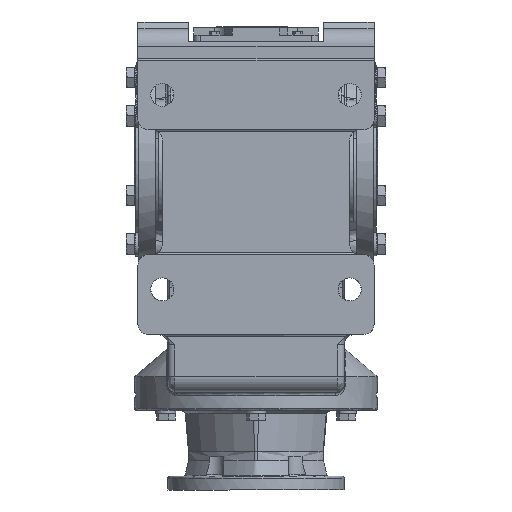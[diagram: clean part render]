
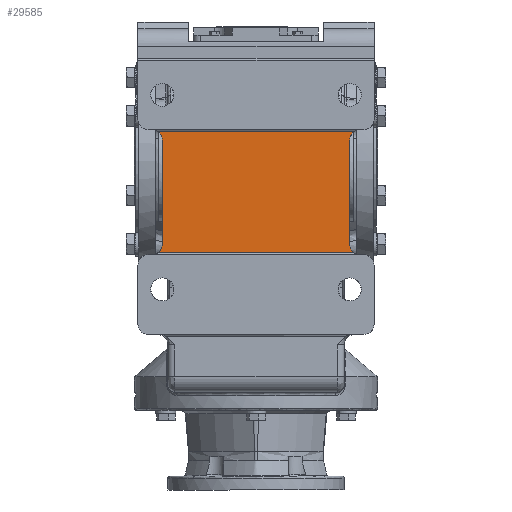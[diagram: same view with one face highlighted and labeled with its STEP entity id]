
A CAD part, front view. The second image highlights one B-rep face of the part: STEP entity #29585.
In plain terms, the highlighted planar face has unit normal (0, -1, 0).
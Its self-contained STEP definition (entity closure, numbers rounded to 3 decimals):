
#5784 = CARTESIAN_POINT ( 'NONE',  ( 621.774, -310., -235. ) ) ;
#5786 = PLANE ( 'NONE',  #24043 ) ;
#5788 = DIRECTION ( 'NONE',  ( 0., 1., 0. ) ) ;
#5789 = DIRECTION ( 'NONE',  ( 0., 0., 1. ) ) ;
#9008 = DIRECTION ( 'NONE',  ( 1., 0., 0. ) ) ;
#9032 = CARTESIAN_POINT ( 'NONE',  ( 621.774, -310., 42. ) ) ;
#9452 = CARTESIAN_POINT ( 'NONE',  ( 621.774, -310., -132. ) ) ;
#9453 = DIRECTION ( 'NONE',  ( -1., 0., 0. ) ) ;
#11813 = LINE ( 'NONE', #9032, #11821 ) ;
#11821 = VECTOR ( 'NONE', #9008, 1000. ) ;
#12622 = LINE ( 'NONE', #9452, #12625 ) ;
#12625 = VECTOR ( 'NONE', #9453, 1000. ) ;
#14636 = EDGE_LOOP ( 'NONE', ( #30355, #30356, #30357, #20639, #20641, #20643, #20645, #20647 ) ) ;
#20639 = ORIENTED_EDGE ( 'NONE', *, *, #44101, .F. ) ;
#20641 = ORIENTED_EDGE ( 'NONE', *, *, #44103, .T. ) ;
#20643 = ORIENTED_EDGE ( 'NONE', *, *, #77961, .F. ) ;
#20645 = ORIENTED_EDGE ( 'NONE', *, *, #44105, .T. ) ;
#20647 = ORIENTED_EDGE ( 'NONE', *, *, #44108, .F. ) ;
#21332 = FACE_OUTER_BOUND ( 'NONE', #14636, .T. ) ;
#24043 = AXIS2_PLACEMENT_3D ( 'NONE', #5784, #5788, #5789 ) ;
#29585 = ADVANCED_FACE ( 'NONE', ( #21332 ), #5786, .F. ) ;
#30355 = ORIENTED_EDGE ( 'NONE', *, *, #44097, .T. ) ;
#30356 = ORIENTED_EDGE ( 'NONE', *, *, #78082, .F. ) ;
#30357 = ORIENTED_EDGE ( 'NONE', *, *, #44099, .T. ) ;
#37422 = DIRECTION ( 'NONE',  ( 0., 0., -1. ) ) ;
#37424 = CARTESIAN_POINT ( 'NONE',  ( 135., -310., 0. ) ) ;
#37426 = CARTESIAN_POINT ( 'NONE',  ( -150., -310., -120. ) ) ;
#37428 = DIRECTION ( 'NONE',  ( 0., 1., 0. ) ) ;
#37430 = DIRECTION ( 'NONE',  ( 0., 0., 1. ) ) ;
#37434 = CARTESIAN_POINT ( 'NONE',  ( 150., -310., -120. ) ) ;
#37436 = DIRECTION ( 'NONE',  ( 0., 1., 0. ) ) ;
#37437 = DIRECTION ( 'NONE',  ( 0., 0., 1. ) ) ;
#37442 = CARTESIAN_POINT ( 'NONE',  ( -135., -310., 0. ) ) ;
#37444 = DIRECTION ( 'NONE',  ( 0., 0., 1. ) ) ;
#37446 = CARTESIAN_POINT ( 'NONE',  ( 150., -310., 30. ) ) ;
#37447 = DIRECTION ( 'NONE',  ( 0., 1., 0. ) ) ;
#37449 = DIRECTION ( 'NONE',  ( 0., 0., -1. ) ) ;
#37453 = CARTESIAN_POINT ( 'NONE',  ( -150., -310., 30. ) ) ;
#37455 = DIRECTION ( 'NONE',  ( 0., 1., 0. ) ) ;
#37457 = DIRECTION ( 'NONE',  ( 0., 0., -1. ) ) ;
#44097 = EDGE_CURVE ( 'NONE', #47050, #47045, #62829, .T. ) ;
#44099 = EDGE_CURVE ( 'NONE', #47044, #47061, #62825, .T. ) ;
#44101 = EDGE_CURVE ( 'NONE', #47064, #47061, #62835, .T. ) ;
#44103 = EDGE_CURVE ( 'NONE', #47064, #46942, #62833, .T. ) ;
#44105 = EDGE_CURVE ( 'NONE', #46945, #47059, #62841, .T. ) ;
#44108 = EDGE_CURVE ( 'NONE', #47050, #47059, #62843, .T. ) ;
#46431 = AXIS2_PLACEMENT_3D ( 'NONE', #37426, #37428, #37430 ) ;
#46432 = AXIS2_PLACEMENT_3D ( 'NONE', #37434, #37436, #37437 ) ;
#46433 = AXIS2_PLACEMENT_3D ( 'NONE', #37446, #37447, #37449 ) ;
#46434 = AXIS2_PLACEMENT_3D ( 'NONE', #37453, #37455, #37457 ) ;
#46942 = VERTEX_POINT ( 'NONE', #76943 ) ;
#46945 = VERTEX_POINT ( 'NONE', #76946 ) ;
#47044 = VERTEX_POINT ( 'NONE', #77012 ) ;
#47045 = VERTEX_POINT ( 'NONE', #77017 ) ;
#47050 = VERTEX_POINT ( 'NONE', #77016 ) ;
#47059 = VERTEX_POINT ( 'NONE', #77021 ) ;
#47061 = VERTEX_POINT ( 'NONE', #77028 ) ;
#47064 = VERTEX_POINT ( 'NONE', #77025 ) ;
#62825 = CIRCLE ( 'NONE', #46432, 15. ) ;
#62829 = CIRCLE ( 'NONE', #46431, 15. ) ;
#62833 = CIRCLE ( 'NONE', #46433, 15. ) ;
#62835 = LINE ( 'NONE', #37424, #62839 ) ;
#62839 = VECTOR ( 'NONE', #37422, 1000. ) ;
#62841 = CIRCLE ( 'NONE', #46434, 15. ) ;
#62843 = LINE ( 'NONE', #37442, #62847 ) ;
#62847 = VECTOR ( 'NONE', #37444, 1000. ) ;
#76943 = CARTESIAN_POINT ( 'NONE',  ( 141., -310., 42. ) ) ;
#76946 = CARTESIAN_POINT ( 'NONE',  ( -141., -310., 42. ) ) ;
#77012 = CARTESIAN_POINT ( 'NONE',  ( 141., -310., -132. ) ) ;
#77016 = CARTESIAN_POINT ( 'NONE',  ( -135., -310., -120. ) ) ;
#77017 = CARTESIAN_POINT ( 'NONE',  ( -141., -310., -132. ) ) ;
#77021 = CARTESIAN_POINT ( 'NONE',  ( -135., -310., 30. ) ) ;
#77025 = CARTESIAN_POINT ( 'NONE',  ( 135., -310., 30. ) ) ;
#77028 = CARTESIAN_POINT ( 'NONE',  ( 135., -310., -120. ) ) ;
#77961 = EDGE_CURVE ( 'NONE', #46945, #46942, #11813, .T. ) ;
#78082 = EDGE_CURVE ( 'NONE', #47044, #47045, #12622, .T. ) ;
